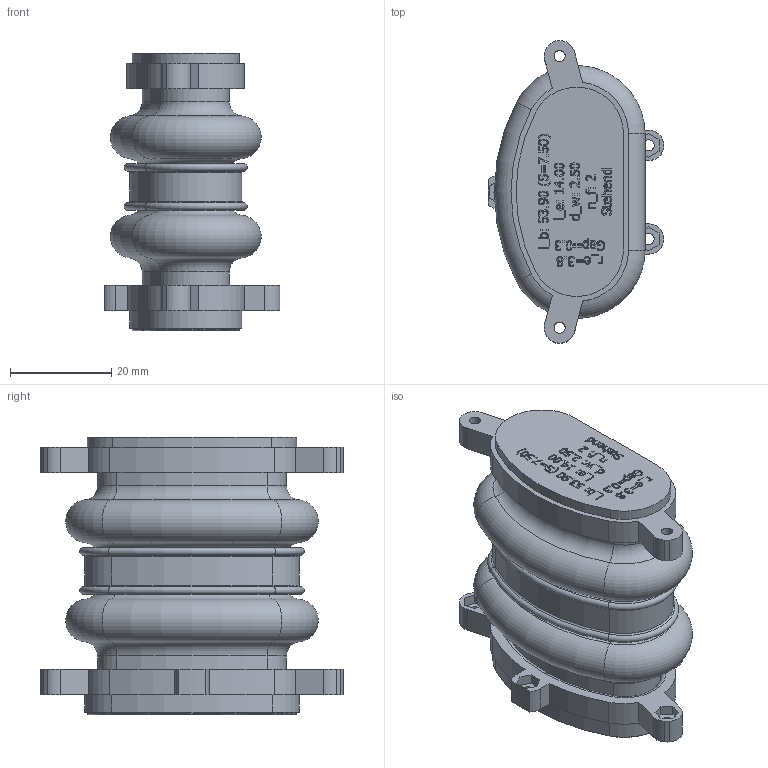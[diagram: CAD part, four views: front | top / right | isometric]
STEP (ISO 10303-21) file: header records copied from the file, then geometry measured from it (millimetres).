
FILE_DESCRIPTION(/* description */ (''),/* implementation_level */ '2;1');
FILE_NAME(/* name */ 'cast_bellow_Assembly.stp',/* time_stamp */ '2025-08-17T18:54:34+02:00',/* author */ ('MehdiBelhadj'),/* organization */ (''),/* preprocessor_version */ 'ST-DEVELOPER v20.1',/* originating_system */ 'Autodesk Inventor 2026',/* authorisation */ '');
FILE_SCHEMA (('AUTOMOTIVE_DESIGN { 1 0 10303 214 3 1 1 }'));
Length unit declared in the file: millimetre
Products named in the file (7): Balg_Final; Balg_Oben_Unten; Balg_Haut; Balg_ObenMitDichtung; Balg_Oben_Unten_1; Balg_Dichtung; BalgV3_MittelRing
Assembly tree (6 placements, depth 3):
  Balg_Final
    Balg_Oben_Unten
    Balg_Haut
    Balg_ObenMitDichtung
      Balg_Oben_Unten_1
      Balg_Dichtung
    BalgV3_MittelRing
Bounding box: 34.74 x 59.82 x 54.9 mm (x, y, z)
Volume: 27699.7 mm3; surface area: 26564.5 mm2
Topology: 5 solids, 5 shells, 1239 faces, 3179 edges, 2062 vertices
Faces by surface type: plane 550, bspline 421, cylinder 163, torus 99, cone 6
Full cylindrical faces by diameter (mm): 2.2 x7, 4.1 x2
Entity records: 39892 total; most frequent: CARTESIAN_POINT 11967, ORIENTED_EDGE 6358, DIRECTION 4485, EDGE_CURVE 3179, VERTEX_POINT 2062, LINE 1853, VECTOR 1853, EDGE_LOOP 1371
